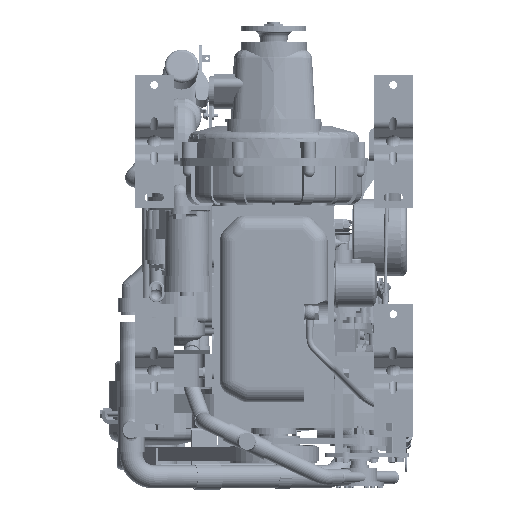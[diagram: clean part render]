
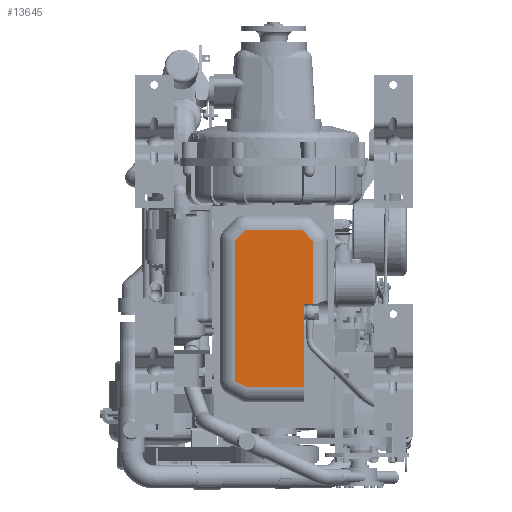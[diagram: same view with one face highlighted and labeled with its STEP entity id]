
A CAD part, front view. The second image highlights one B-rep face of the part: STEP entity #13645.
In plain terms, the highlighted planar face has unit normal (0, -1, 0).
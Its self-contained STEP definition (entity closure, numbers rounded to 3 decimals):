
#12586=DIRECTION('',(-1.,0.,0.));
#12587=VECTOR('',#12586,13.055);
#12588=CARTESIAN_POINT('',(60.355,-175.,
-94.771));
#12589=LINE('',#12588,#12587);
#12594=DIRECTION('',(0.887,0.,-0.462));
#12595=VECTOR('',#12594,21.194);
#12596=CARTESIAN_POINT('',(-60.355,-175.,
-213.062));
#12597=LINE('',#12596,#12595);
#12598=DIRECTION('',(-0.683,0.,-0.731));
#12599=VECTOR('',#12598,22.697);
#12600=CARTESIAN_POINT('',(-44.858,-175.,
19.848));
#12601=LINE('',#12600,#12599);
#12602=DIRECTION('',(-0.683,0.,0.731));
#12603=VECTOR('',#12602,22.697);
#12604=CARTESIAN_POINT('',(60.355,-175.,
3.264));
#12605=LINE('',#12604,#12603);
#12606=DIRECTION('',(0.,0.,-1.));
#12607=VECTOR('',#12606,128.076);
#12608=CARTESIAN_POINT('',(47.3,-175.,-94.771));
#12609=LINE('',#12608,#12607);
#12624=DIRECTION('',(-1.,0.,0.));
#12625=VECTOR('',#12624,88.855);
#12626=CARTESIAN_POINT('',(47.3,-175.,-222.848));
#12627=LINE('',#12626,#12625);
#12648=DIRECTION('',(0.,0.,1.));
#12649=VECTOR('',#12648,216.326);
#12650=CARTESIAN_POINT('',(-60.355,-175.,
-213.062));
#12651=LINE('',#12650,#12649);
#12652=DIRECTION('',(1.,0.,0.));
#12653=VECTOR('',#12652,89.717);
#12654=CARTESIAN_POINT('',(-44.858,-175.,
19.848));
#12655=LINE('',#12654,#12653);
#12669=DIRECTION('',(0.,0.,-1.));
#12670=VECTOR('',#12669,98.035);
#12671=CARTESIAN_POINT('',(60.355,-175.,
3.264));
#12672=LINE('',#12671,#12670);
#12743=CARTESIAN_POINT('',(60.355,-175.,
-94.771));
#12744=CARTESIAN_POINT('',(47.3,-175.,-94.771));
#12745=VERTEX_POINT('',#12743);
#12746=VERTEX_POINT('',#12744);
#12747=CARTESIAN_POINT('',(60.355,-175.,
3.264));
#12748=VERTEX_POINT('',#12747);
#12749=CARTESIAN_POINT('',(44.858,-175.,
19.848));
#12750=VERTEX_POINT('',#12749);
#12751=CARTESIAN_POINT('',(-44.858,-175.,
19.848));
#12752=VERTEX_POINT('',#12751);
#12753=CARTESIAN_POINT('',(-60.355,-175.,
3.264));
#12754=VERTEX_POINT('',#12753);
#12755=CARTESIAN_POINT('',(-60.355,-175.,
-213.062));
#12756=VERTEX_POINT('',#12755);
#12757=CARTESIAN_POINT('',(-41.555,-175.,
-222.848));
#12758=VERTEX_POINT('',#12757);
#12759=CARTESIAN_POINT('',(47.3,-175.,-222.848));
#12760=VERTEX_POINT('',#12759);
#13623=CARTESIAN_POINT('',(0.,-175.,-101.5));
#13624=DIRECTION('',(0.,1.,0.));
#13625=DIRECTION('',(-1.,0.,0.));
#13626=AXIS2_PLACEMENT_3D('',#13623,#13624,#13625);
#13627=PLANE('',#13626);
#13628=ORIENTED_EDGE('',*,*,#13612,.T.);
#13630=ORIENTED_EDGE('',*,*,#13629,.T.);
#13632=ORIENTED_EDGE('',*,*,#13631,.T.);
#13634=ORIENTED_EDGE('',*,*,#13633,.F.);
#13636=ORIENTED_EDGE('',*,*,#13635,.T.);
#13637=ORIENTED_EDGE('',*,*,#13460,.F.);
#13639=ORIENTED_EDGE('',*,*,#13638,.T.);
#13640=ORIENTED_EDGE('',*,*,#13543,.F.);
#13642=ORIENTED_EDGE('',*,*,#13641,.T.);
#13643=EDGE_LOOP('',(#13628,#13630,#13632,#13634,#13636,#13637,#13639,#13640,
#13642));
#13644=FACE_OUTER_BOUND('',#13643,.F.);
#13645=ADVANCED_FACE('',(#13644),#13627,.F.);
#13460=EDGE_CURVE('',#12752,#12754,#12601,.T.);
#13543=EDGE_CURVE('',#12748,#12750,#12605,.T.);
#13612=EDGE_CURVE('',#12745,#12746,#12589,.T.);
#13629=EDGE_CURVE('',#12746,#12760,#12609,.T.);
#13631=EDGE_CURVE('',#12760,#12758,#12627,.T.);
#13633=EDGE_CURVE('',#12756,#12758,#12597,.T.);
#13635=EDGE_CURVE('',#12756,#12754,#12651,.T.);
#13638=EDGE_CURVE('',#12752,#12750,#12655,.T.);
#13641=EDGE_CURVE('',#12748,#12745,#12672,.T.);
